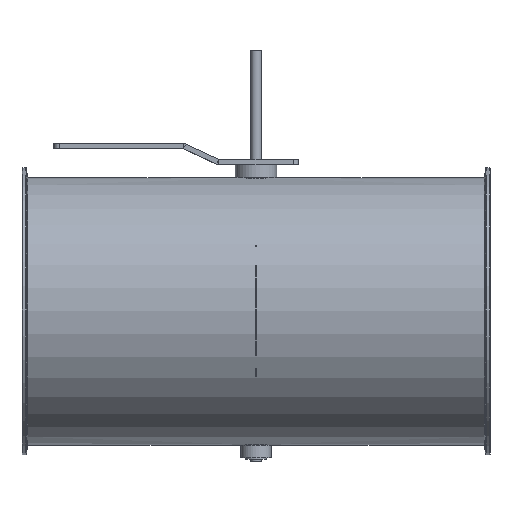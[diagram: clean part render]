
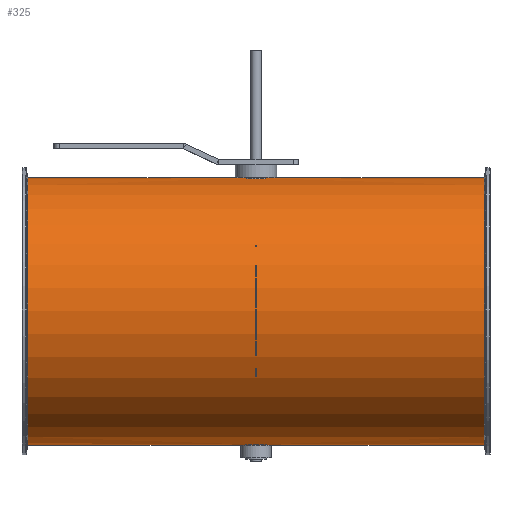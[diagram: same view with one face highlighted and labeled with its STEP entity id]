
A CAD part, top view. The second image highlights one B-rep face of the part: STEP entity #325.
In plain terms, the highlighted cylindrical face has radius 125.8 mm (diameter 251.6 mm), a full revolution.
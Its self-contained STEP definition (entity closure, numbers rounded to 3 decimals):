
#103=B_SPLINE_CURVE_WITH_KNOTS('',3,(#1785,#1786,#1787,#1788,#1789,#1790,
#1791,#1792,#1793,#1794,#1795,#1796,#1797,#1798,#1799,#1800,#1801,#1802),
 .UNSPECIFIED.,.T.,.F.,(2,2,2,2,2,2,2,2,2,2,2),(-0.125,0.,0.125,
0.25,0.375,0.5,0.625,
0.75,0.875,1.,1.125),.UNSPECIFIED.);
#104=B_SPLINE_CURVE_WITH_KNOTS('',3,(#1804,#1805,#1806,#1807,#1808,#1809,
#1810,#1811,#1812,#1813,#1814,#1815,#1816,#1817,#1818,#1819,#1820,#1821),
 .UNSPECIFIED.,.T.,.F.,(2,2,2,2,2,2,2,2,2,2,2),(-0.125,0.,0.125,
0.25,0.375,0.5,0.625,
0.75,0.875,1.,1.125),.UNSPECIFIED.);
#266=CYLINDRICAL_SURFACE('',#1218,125.8);
#325=ADVANCED_FACE('',(#429,#430,#431,#432),#266,.T.);
#429=FACE_BOUND('',#557,.T.);
#430=FACE_BOUND('',#558,.T.);
#431=FACE_BOUND('',#559,.T.);
#432=FACE_BOUND('',#560,.T.);
#557=EDGE_LOOP('',(#775));
#558=EDGE_LOOP('',(#776));
#559=EDGE_LOOP('',(#777));
#560=EDGE_LOOP('',(#778));
#775=ORIENTED_EDGE('',*,*,#1027,.T.);
#776=ORIENTED_EDGE('',*,*,#1028,.F.);
#777=ORIENTED_EDGE('',*,*,#1029,.F.);
#778=ORIENTED_EDGE('',*,*,#1030,.T.);
#913=VERTEX_POINT('',#1784);
#914=VERTEX_POINT('',#1803);
#915=VERTEX_POINT('',#1822);
#916=VERTEX_POINT('',#1824);
#1027=EDGE_CURVE('',#913,#913,#1105,.T.);
#1028=EDGE_CURVE('',#914,#914,#103,.T.);
#1029=EDGE_CURVE('',#915,#915,#104,.T.);
#1030=EDGE_CURVE('',#916,#916,#1106,.T.);
#1105=CIRCLE('',#1216,125.8);
#1106=CIRCLE('',#1217,125.8);
#1216=AXIS2_PLACEMENT_3D('',#1783,#1478,#1479);
#1217=AXIS2_PLACEMENT_3D('',#1823,#1480,#1481);
#1218=AXIS2_PLACEMENT_3D('',#1825,#1482,#1483);
#1478=DIRECTION('',(-1.,0.,0.));
#1479=DIRECTION('',(0.,0.,-1.));
#1480=DIRECTION('',(1.,0.,0.));
#1481=DIRECTION('',(0.,0.,1.));
#1482=DIRECTION('',(1.,0.,0.));
#1483=DIRECTION('',(0.,0.,-1.));
#1783=CARTESIAN_POINT('',(214.804,-51.,125.));
#1784=CARTESIAN_POINT('',(214.804,-51.,-0.8));
#1785=CARTESIAN_POINT('',(2.644,74.402,115.));
#1786=CARTESIAN_POINT('',(-2.644,74.402,115.));
#1787=CARTESIAN_POINT('',(-5.228,74.497,116.085));
#1788=CARTESIAN_POINT('',(-8.916,74.705,119.774));
#1789=CARTESIAN_POINT('',(-9.999,74.8,122.385));
#1790=CARTESIAN_POINT('',(-10.001,74.8,127.604));
#1791=CARTESIAN_POINT('',(-8.941,74.706,130.2));
#1792=CARTESIAN_POINT('',(-5.208,74.496,133.936));
#1793=CARTESIAN_POINT('',(-2.614,74.402,134.999));
#1794=CARTESIAN_POINT('',(2.607,74.402,135.001));
#1795=CARTESIAN_POINT('',(5.219,74.497,133.92));
#1796=CARTESIAN_POINT('',(8.91,74.705,130.236));
#1797=CARTESIAN_POINT('',(9.997,74.8,127.65));
#1798=CARTESIAN_POINT('',(10.003,74.8,122.369));
#1799=CARTESIAN_POINT('',(8.92,74.705,119.781));
#1800=CARTESIAN_POINT('',(5.233,74.498,116.088));
#1801=CARTESIAN_POINT('',(2.644,74.402,115.));
#1802=CARTESIAN_POINT('',(-2.644,74.402,115.));
#1803=CARTESIAN_POINT('',(0.,74.402,115.));
#1804=CARTESIAN_POINT('',(-2.644,-176.402,115.));
#1805=CARTESIAN_POINT('',(2.644,-176.402,115.));
#1806=CARTESIAN_POINT('',(5.228,-176.497,116.085));
#1807=CARTESIAN_POINT('',(8.916,-176.705,119.774));
#1808=CARTESIAN_POINT('',(9.999,-176.8,122.385));
#1809=CARTESIAN_POINT('',(10.001,-176.8,127.604));
#1810=CARTESIAN_POINT('',(8.941,-176.706,130.2));
#1811=CARTESIAN_POINT('',(5.208,-176.496,133.936));
#1812=CARTESIAN_POINT('',(2.614,-176.402,134.999));
#1813=CARTESIAN_POINT('',(-2.607,-176.402,135.001));
#1814=CARTESIAN_POINT('',(-5.219,-176.497,133.92));
#1815=CARTESIAN_POINT('',(-8.91,-176.705,130.236));
#1816=CARTESIAN_POINT('',(-9.997,-176.8,127.65));
#1817=CARTESIAN_POINT('',(-10.003,-176.8,122.369));
#1818=CARTESIAN_POINT('',(-8.92,-176.705,119.781));
#1819=CARTESIAN_POINT('',(-5.233,-176.498,116.088));
#1820=CARTESIAN_POINT('',(-2.644,-176.402,115.));
#1821=CARTESIAN_POINT('',(2.644,-176.402,115.));
#1822=CARTESIAN_POINT('',(0.,-176.402,115.));
#1823=CARTESIAN_POINT('',(-214.804,-51.,125.));
#1824=CARTESIAN_POINT('',(-214.804,-51.,250.8));
#1825=CARTESIAN_POINT('',(-220.,-51.,125.));
